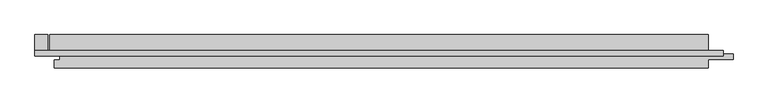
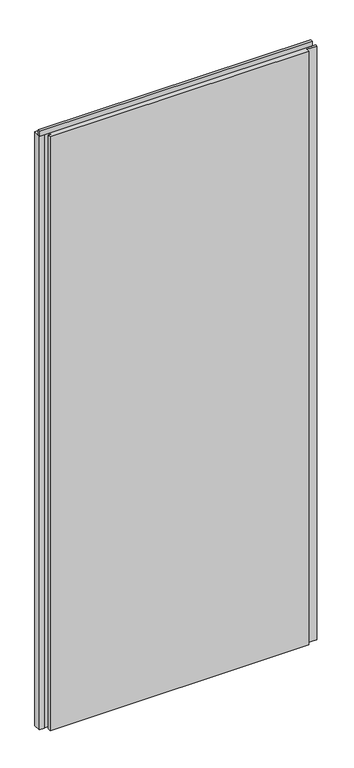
"""IFC4 building model written with IfcOpenShell, lengths in millimetres: plate geometry, Trimo_Qbiss Screen_Normal Panel-VERTICAL : HR - B."""

from ifc_helpers import new_model, si_unit, frame, origin, place, context, project, spatial, polyline, outline, extrude, source, transform, mapped, element, save


def plate_28b83c4b(model_context):
    return source(origin(), model_context, "Body", "SweptSolid", [
        extrude(outline(polyline([(-531.0, 97.0), (-531.0, 126.0), (-512.0, 126.0), (-512.0, 97.0), (-531.0, 97.0)])), frame((0.0, 0.0, 12.5), z_axis=(0.0, 0.0, 1.0), x_axis=(1.0, 0.0, 0.0)), (0.0, 0.0, 1.0), 2375.0),
        extrude(outline(polyline([(478.0, 97.0), (478.0, 102.6), (499.0, 102.6), (499.0, 97.0), (478.0, 97.0)])), frame((0.0, 0.0, 12.5), z_axis=(0.0, 0.0, 1.0), x_axis=(1.0, 0.0, 0.0)), (0.0, 0.0, 1.0), 2375.0),
        extrude(outline(polyline([(-531.0, 93.9), (-531.0, 102.6), (500.0, 102.6), (500.0, 93.9), (-531.0, 93.9)])), frame((0.0, 0.0, 2390.5), z_axis=(0.0, 0.0, 1.0), x_axis=(1.0, 0.0, 0.0)), (0.0, 0.0, 1.0), 19.0),
        extrude(outline(polyline([(477.0, 97.0), (514.5, 97.0), (514.5, 89.0), (477.0, 89.0), (477.0, 76.0), (-502.0, 76.0), (-502.0, 88.0), (-493.5, 88.0), (-493.5, 98.0), (-509.0, 98.0), (-509.0, 126.0), (477.0, 126.0), (477.0, 97.0)])), frame((0.0, 0.0, 12.5), z_axis=(0.0, 0.0, 1.0), x_axis=(1.0, 0.0, 0.0)), (0.0, 0.0, 1.0), 2375.0),
    ])


if __name__ == "__main__":
    model = new_model("IFC4")
    model_context = context("Model", 3, world=origin())
    ifc_project = project(units=[si_unit("LENGTHUNIT", "METRE", prefix="MILLI")], contexts=[model_context])
    site = spatial("IfcSite", under=ifc_project)
    building = spatial("IfcBuilding", under=site)
    placement = place(None, origin())
    plate_shape = plate_28b83c4b(model_context)
    element("IfcPlate", 1, ObjectType="Trimo_Qbiss Screen_Normal Panel-VERTICAL : HR - B", at=placement, inside=building, context=model_context, shape_type="MappedRepresentation", body=[
        mapped(plate_shape, transform((0.0, 0.0, 0.0), x_axis=(1.0, 0.0, 0.0), y_axis=(0.0, 1.0, 0.0), z_axis=(0.0, 0.0, 1.0))),
    ])
    save(model, "model.ifc")
